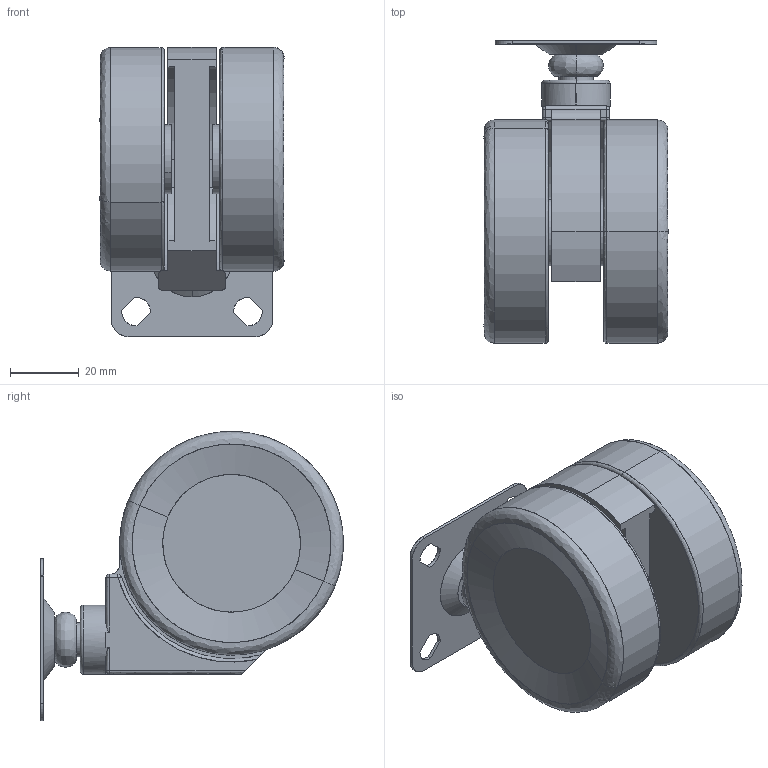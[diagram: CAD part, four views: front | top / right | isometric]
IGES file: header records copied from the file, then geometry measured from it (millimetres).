
Start section: SolidWorks IGES file using analytic representation for surfaces
Bounding box: 53.49 x 88 x 84 mm (x, y, z)
Surface area: 35988.7 mm2 (no closed solid volume)
Topology: 0 solids, 0 shells, 129 faces, 1812 edges, 1806 vertices
Faces by surface type: revolution 67, bspline 62
